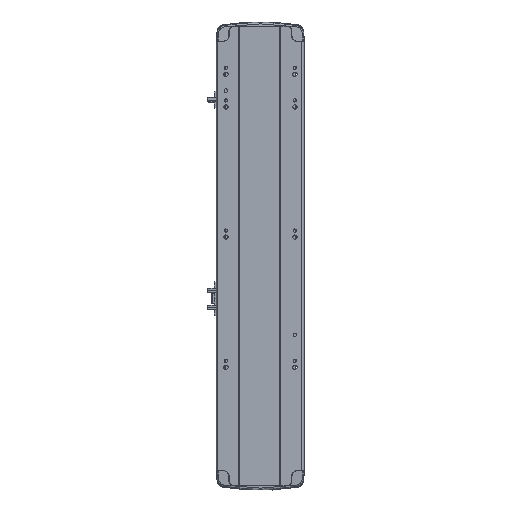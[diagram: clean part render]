
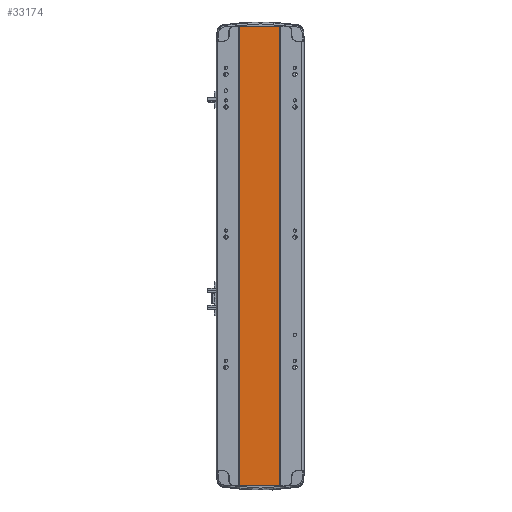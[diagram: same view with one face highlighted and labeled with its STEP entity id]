
A CAD part, front view. The second image highlights one B-rep face of the part: STEP entity #33174.
In plain terms, the highlighted planar face has unit normal (0, -1, 0).
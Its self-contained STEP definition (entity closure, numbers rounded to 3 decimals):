
#2390 = DIRECTION ( 'NONE',  ( 0., 1., 0. ) ) ;
#3005 = ORIENTED_EDGE ( 'NONE', *, *, #6113, .T. ) ;
#3750 = CARTESIAN_POINT ( 'NONE',  ( -32., 1., 706. ) ) ;
#4520 = LINE ( 'NONE', #12938, #20787 ) ;
#4573 = DIRECTION ( 'NONE',  ( 1., 0., 0. ) ) ;
#4705 = CARTESIAN_POINT ( 'NONE',  ( 30., 1., 0. ) ) ;
#6113 = EDGE_CURVE ( 'NONE', #13328, #41799, #39195, .T. ) ;
#8223 = EDGE_LOOP ( 'NONE', ( #15426, #15529, #42112, #3005 ) ) ;
#10003 = LINE ( 'NONE', #22691, #42327 ) ;
#11259 = VECTOR ( 'NONE', #34681, 1000. ) ;
#12885 = EDGE_CURVE ( 'NONE', #41799, #33500, #23541, .T. ) ;
#12938 = CARTESIAN_POINT ( 'NONE',  ( 30., 1., 706. ) ) ;
#13328 = VERTEX_POINT ( 'NONE', #45474 ) ;
#13490 = VERTEX_POINT ( 'NONE', #24913 ) ;
#15426 = ORIENTED_EDGE ( 'NONE', *, *, #12885, .T. ) ;
#15442 = FACE_OUTER_BOUND ( 'NONE', #8223, .T. ) ;
#15529 = ORIENTED_EDGE ( 'NONE', *, *, #25052, .F. ) ;
#16547 = DIRECTION ( 'NONE',  ( 0., 0., -1. ) ) ;
#17396 = VECTOR ( 'NONE', #41306, 1000. ) ;
#20691 = CARTESIAN_POINT ( 'NONE',  ( -32., 1., 0. ) ) ;
#20787 = VECTOR ( 'NONE', #16547, 1000. ) ;
#22691 = CARTESIAN_POINT ( 'NONE',  ( -32., 1., 706. ) ) ;
#23541 = LINE ( 'NONE', #27798, #17396 ) ;
#23813 = PLANE ( 'NONE',  #24812 ) ;
#24812 = AXIS2_PLACEMENT_3D ( 'NONE', #27237, #2390, #27397 ) ;
#24913 = CARTESIAN_POINT ( 'NONE',  ( 30., 1., 706. ) ) ;
#25052 = EDGE_CURVE ( 'NONE', #13490, #33500, #4520, .T. ) ;
#25620 = EDGE_CURVE ( 'NONE', #13328, #13490, #10003, .T. ) ;
#27237 = CARTESIAN_POINT ( 'NONE',  ( -32., 1., 706. ) ) ;
#27397 = DIRECTION ( 'NONE',  ( -1., 0., 0. ) ) ;
#27798 = CARTESIAN_POINT ( 'NONE',  ( -32., 1., 0. ) ) ;
#33174 = ADVANCED_FACE ( 'NONE', ( #15442 ), #23813, .F. ) ;
#33500 = VERTEX_POINT ( 'NONE', #4705 ) ;
#34681 = DIRECTION ( 'NONE',  ( 0., 0., -1. ) ) ;
#39195 = LINE ( 'NONE', #3750, #11259 ) ;
#41306 = DIRECTION ( 'NONE',  ( 1., 0., 0. ) ) ;
#41799 = VERTEX_POINT ( 'NONE', #20691 ) ;
#42112 = ORIENTED_EDGE ( 'NONE', *, *, #25620, .F. ) ;
#42327 = VECTOR ( 'NONE', #4573, 1000. ) ;
#45474 = CARTESIAN_POINT ( 'NONE',  ( -32., 1., 706. ) ) ;
